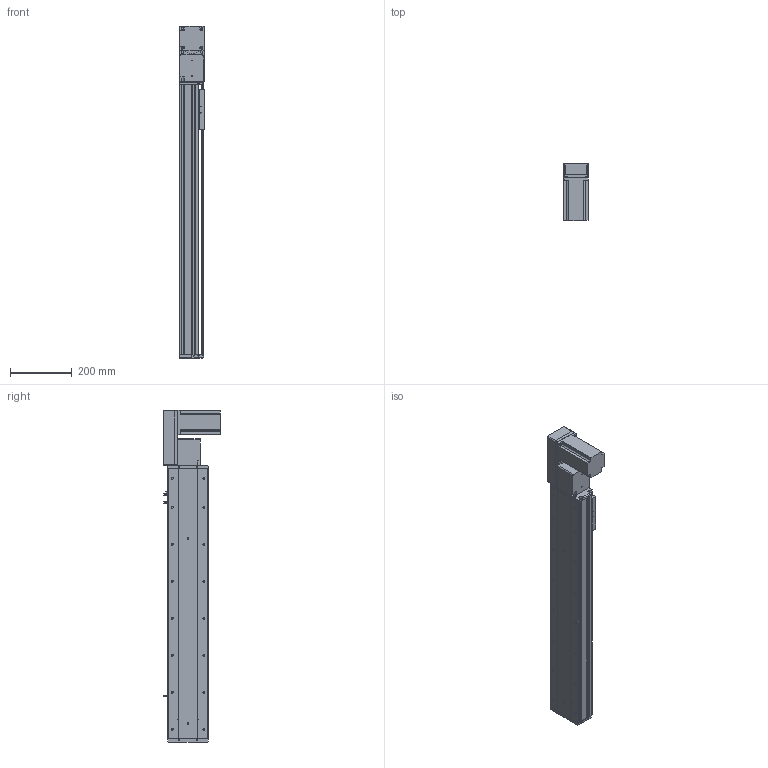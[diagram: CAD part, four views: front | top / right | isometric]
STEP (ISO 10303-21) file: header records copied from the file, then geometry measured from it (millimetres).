
FILE_DESCRIPTION (( 'STEP AP214' ), '1' );
FILE_NAME ('KSD130B-S650-MRB-CM.STEP', '2019-11-15T06:16:47', ( '微软用户' ), ( '微软中国' ), 'SwSTEP 2.0', 'SolidWorks 2014', '' );
FILE_SCHEMA (( 'AUTOMOTIVE_DESIGN' ));
Length unit declared in the file: millimetre
Products named in the file (12): 台达ECMA－C20807AS伺服电机; 130宽模组保护罩上下左右折-同步带; 130宽模组马达安装板连板左右折同步带; 覜茼え100遵圉猾敕; U倰嫖萇EEㄜSX672; 130宽盖板半封闭同步带-650行程; 130宽马达安装板同步带右-改镜向_默认<按加工>; 130宽马达安装板同步带半封闭; 130宽同步带安装座半封闭; 130宽端盖同步带半封闭; 130宽底板半封闭同步带-650行程; KSD130B-S650-MRB-CM
Assembly tree (13 placements, depth 2):
  KSD130B-S650-MRB-CM
    130宽底板半封闭同步带-650行程
    130宽端盖同步带半封闭
    130宽同步带安装座半封闭
    130宽马达安装板同步带半封闭
    130宽马达安装板同步带右-改镜向_默认<按加工>
    130宽盖板半封闭同步带-650行程
    U倰嫖萇EEㄜSX672  x3
    覜茼え100遵圉猾敕
    130宽模组马达安装板连板左右折同步带
    130宽模组保护罩上下左右折-同步带
    台达ECMA－C20807AS伺服电机
Bounding box: 81 x 184.8 x 1077 mm (x, y, z)
Volume: 4044063 mm3; surface area: 1071972 mm2
Topology: 14 solids, 14 shells, 1449 faces, 4101 edges, 2631 vertices
Faces by surface type: cylinder 684, plane 614, cone 151
Entity records: 46847 total; most frequent: CARTESIAN_POINT 8516, DIRECTION 7163, ORIENTED_EDGE 6886, EDGE_CURVE 3443, AXIS2_PLACEMENT_3D 2598, VERTEX_POINT 2255, VECTOR 1967, LINE 1967
